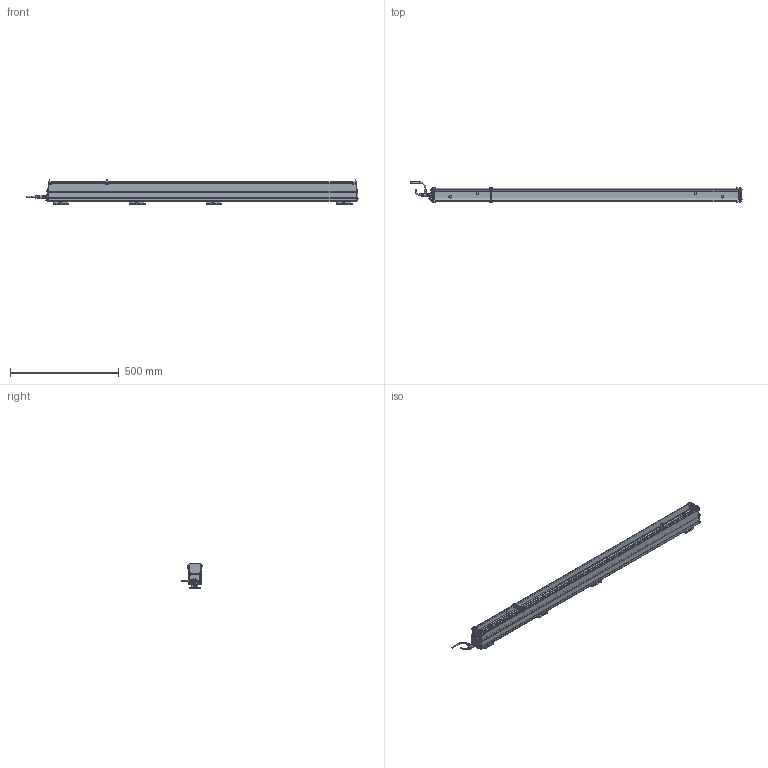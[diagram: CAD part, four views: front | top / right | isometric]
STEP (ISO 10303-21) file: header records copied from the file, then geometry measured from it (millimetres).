
FILE_DESCRIPTION(/* description */ (''),/* implementation_level */ '2;1');
FILE_NAME(/* name */ 'THUNDERION2_3D_1250-1445',/* time_stamp */ '2017-09-28T10:55:13+02:00',/* author */ (''),/* organization */ (''),/* preprocessor_version */ 'ST-DEVELOPER v15.7',/* originating_system */ 'HiCAD 2015 2002.1 Build 408',/* authorisation */ '');
FILE_SCHEMA (('AUTOMOTIVE_DESIGN { 1 0 10303 214 1 1 1 1 }'));
Products named in the file (100): Root; -_ThunderION 1250/1445; -_Side profile; -_Bar; -_Connector straight; EXTRUDED SOLID_0; -_Cord; REVOLVED SOLID_1; REVOLVED SOLID_3; DIN 13-M12x1,5; -_Connector angled; REVOLVED SOLID_2; 4532000100_Mounting bracket bars; -_Side piece; -_Slide piece; -_Bracket small; DIN 13-M3; DIN 76-M3; -_Cable End; light pipe M; light pipe L; -_Cap CE; -_Stud M4; -_Connector M12 male 5 pole_1; -_Contacts; ABSR_1_2_1_1_Inner part; ABSR_1_2_1_2_Inner part; bus; Pg 9; -_Ring tongue terminal; 9230000020_Nut M4; GEWINDE; 9240100020_Spring washer M4; ISO 7051-ST3.5x9.5-C-H_Tapping screws_0; -_Fill; -_Dead end; -_Cap DE; -_Emitter; -_Support Side Profile; -_End Plate
Assembly tree (99 placements, depth 6):
  Root
    -_ThunderION 1250/1445
      -_Side profile
      -_Side profile
      -_Bar
      -_Connector straight
        EXTRUDED SOLID_0
        -_Cord
        REVOLVED SOLID_1
        REVOLVED SOLID_3
          DIN 13-M12x1,5
      -_Connector angled
        REVOLVED SOLID_1
        EXTRUDED SOLID_0
        -_Cord
        REVOLVED SOLID_2
        REVOLVED SOLID_3
          DIN 13-M12x1,5
      4532000100_Mounting bracket bars
        -_Side piece
        -_Side piece
        -_Slide piece
        -_Bracket small
          DIN 13-M3
          DIN 13-M3
          DIN 76-M3
          DIN 76-M3
      4532000100_Mounting bracket bars
        -_Side piece
        -_Side piece
        -_Slide piece
        -_Bracket small
          DIN 13-M3
          DIN 13-M3
          DIN 76-M3
          DIN 76-M3
      4532000100_Mounting bracket bars
        -_Side piece
        -_Side piece
        -_Slide piece
        -_Bracket small
          DIN 13-M3
          DIN 13-M3
          DIN 76-M3
          DIN 76-M3
      4532000100_Mounting bracket bars
        -_Side piece
        -_Side piece
        -_Slide piece
        -_Bracket small
          DIN 13-M3
          DIN 13-M3
          DIN 76-M3
          DIN 76-M3
      -_Cable End
        light pipe M
        light pipe L
        light pipe L
        -_Cap CE
        -_Stud M4
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Bounding box: 1523.34 x 92.23 x 113 mm (x, y, z)
Volume: 4575554.6 mm3; surface area: 1092644.2 mm2
Topology: 93 solids, 105 shells, 4183 faces, 10775 edges, 6593 vertices
Faces by surface type: plane 1811, cylinder 1586, bspline 248, torus 198, sphere 175, cone 165
Full cylindrical faces by diameter (mm): 0.8 x10, 1 x10, 2.387 x16, 2.5 x1, 2.64 x16, 3 x32, 3.141 x2, 3.5 x8, 4 x26, 4.2 x3, 4.4 x1, 5 x4, 5.5 x20, 7.3 x8, 8 x2, 8.4 x2, 9 x6, 9.6 x1, 10 x2, 10.16 x1, 10.5 x2, 11 x4, 12 x5, 12.8 x1, 13.8 x4, 13.86 x1, 14.5 x3, 15.199 x1, 15.2 x1
Entity records: 257851 total; most frequent: CARTESIAN_POINT 77966, DIRECTION 20621, PRESENTATION_STYLE_ASSIGNMENT 20295, OVER_RIDING_STYLED_ITEM 20206, DRAUGHTING_PRE_DEFINED_CURVE_FONT 20174, CURVE_STYLE 20174, ORIENTED_EDGE 20174, EDGE_CURVE 10087
